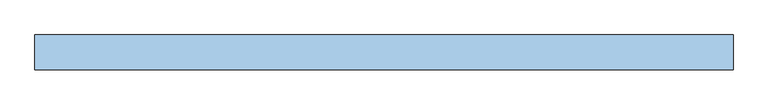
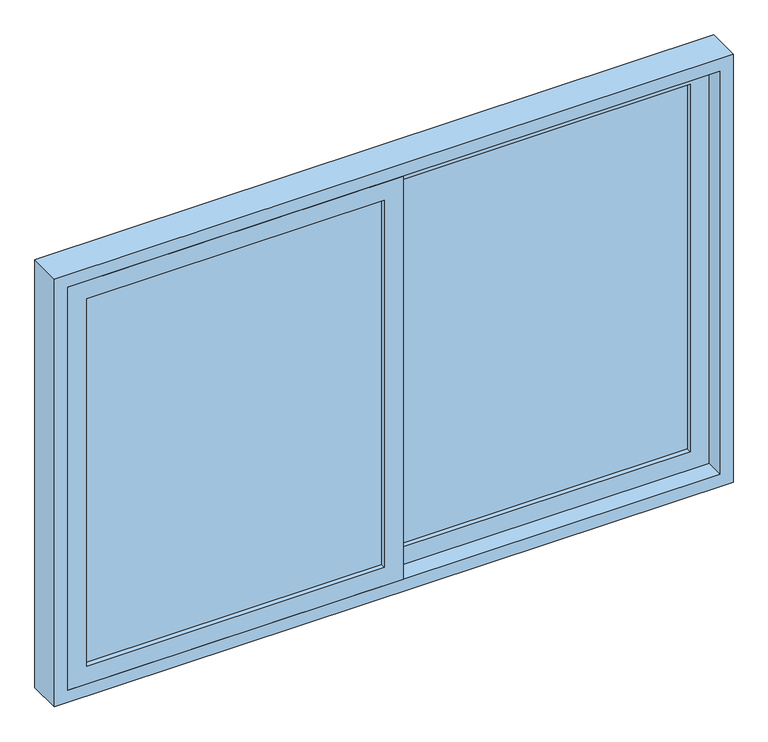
"""IFC4 building model written with IfcOpenShell, lengths in millimetres: window geometry, Janela de correr - 2 Painéis : Janela de correr - 2 Painéis."""

from ifc_helpers import new_model, si_unit, frame, origin, place, context, project, spatial, polyline, outline, extrude, source, transform, mapped, element, save


def window_e5373962(model_context):
    return source(origin(), model_context, "Body", "SweptSolid", [
        extrude(outline(polyline([(1035.0, -25.0), (1035.0, 865.0), (2165.0, 865.0), (2165.0, -25.0), (1035.0, -25.0)]), holes=[polyline([(2115.0, 25.0), (2115.0, 815.0), (1085.0, 815.0), (1085.0, 25.0), (2115.0, 25.0)])]), frame((0.0, -20.0, 0.0), z_axis=(0.0, 1.0, 0.0), x_axis=(0.0, 0.0, 1.0)), (0.0, 0.0, 1.0), 40.0),
        extrude(outline(polyline([(2165.0, 25.0), (2165.0, -865.0), (1035.0, -865.0), (1035.0, 25.0), (2165.0, 25.0)]), holes=[polyline([(1085.0, -25.0), (1085.0, -815.0), (2115.0, -815.0), (2115.0, -25.0), (1085.0, -25.0)])]), frame((0.0, -70.0, 0.0), z_axis=(0.0, 1.0, 0.0), x_axis=(0.0, 0.0, 1.0)), (0.0, 0.0, 1.0), 40.0),
        extrude(outline(polyline([(2200.0, 900.0), (2200.0, -900.0), (1000.0, -900.0), (1000.0, 900.0), (2200.0, 900.0)]), holes=[polyline([(1035.0, 865.0), (1035.0, -865.0), (2165.0, -865.0), (2165.0, 865.0), (1035.0, 865.0)])]), frame((0.0, -70.0, 0.0), z_axis=(0.0, 1.0, 0.0), x_axis=(0.0, 0.0, 1.0)), (0.0, 0.0, 1.0), 90.0),
        extrude(outline(polyline([(25.0, 7.0), (815.0, 7.0), (815.0, -7.0), (25.0, -7.0), (25.0, 7.0)])), frame((0.0, 0.0, 1085.0), z_axis=(0.0, 0.0, 1.0), x_axis=(1.0, 0.0, 0.0)), (0.0, 0.0, 1.0), 1030.0),
        extrude(outline(polyline([(-815.0, -43.0), (-25.0, -43.0), (-25.0, -57.0), (-815.0, -57.0), (-815.0, -43.0)])), frame((0.0, 0.0, 1085.0), z_axis=(0.0, 0.0, 1.0), x_axis=(1.0, 0.0, 0.0)), (0.0, 0.0, 1.0), 1030.0),
    ])


if __name__ == "__main__":
    model = new_model("IFC4")
    model_context = context("Model", 3, world=origin())
    ifc_project = project(units=[si_unit("LENGTHUNIT", "METRE", prefix="MILLI")], contexts=[model_context])
    site = spatial("IfcSite", under=ifc_project)
    building = spatial("IfcBuilding", under=site)
    placement = place(None, origin())
    window_shape = window_e5373962(model_context)
    element("IfcWindow", 1, ObjectType="Janela de correr - 2 Painéis : Janela de correr - 2 Painéis", at=placement, inside=building, context=model_context, shape_type="MappedRepresentation", body=[
        mapped(window_shape, transform((0.0, 0.0, 0.0), x_axis=(1.0, 0.0, 0.0), y_axis=(0.0, 1.0, 0.0), z_axis=(0.0, 0.0, 1.0))),
    ])
    save(model, "model.ifc")
